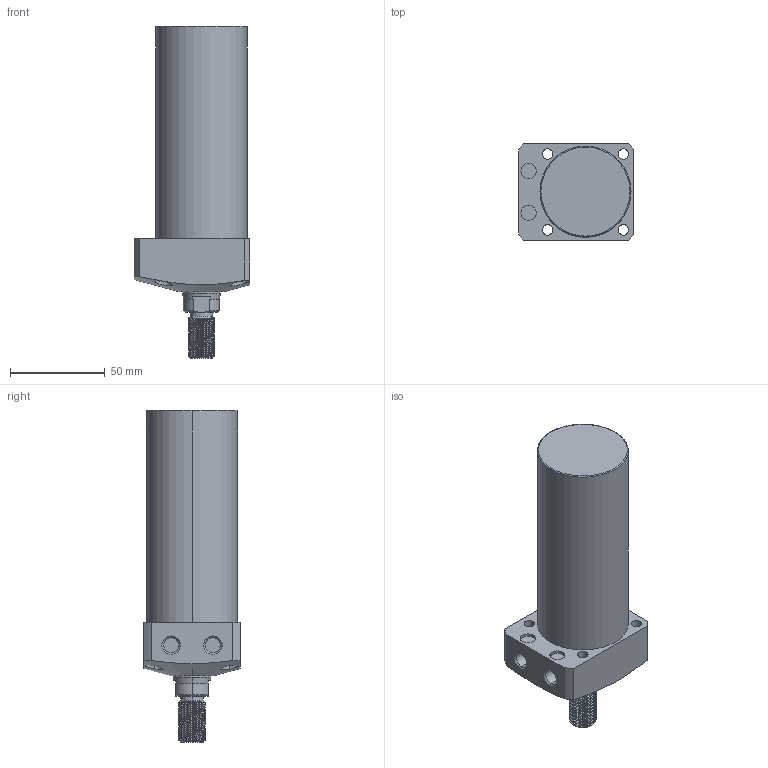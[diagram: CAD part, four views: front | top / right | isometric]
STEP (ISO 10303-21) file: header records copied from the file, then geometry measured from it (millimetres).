
FILE_DESCRIPTION (( 'STEP AP203' ), '1' );
FILE_NAME ('CLL-048CT-085.STEP', '2020-01-08T10:08:31', ( '' ), ( '' ), 'SwSTEP 2.0', 'SolidWorks 2015', '' );
FILE_SCHEMA (( 'CONFIG_CONTROL_DESIGN' ));
Length unit declared in the file: millimetre
Products named in the file (1): CLL-048CT-085
Bounding box: 61 x 51 x 175 mm (x, y, z)
Volume: 281676.1 mm3; surface area: 32905.4 mm2
Topology: 1 solids, 1 shells, 122 faces, 310 edges, 201 vertices
Faces by surface type: cylinder 77, plane 24, cone 17, torus 2, bspline 2
Entity records: 6471 total; most frequent: CARTESIAN_POINT 3670, ORIENTED_EDGE 620, DIRECTION 522, EDGE_CURVE 310, AXIS2_PLACEMENT_3D 206, VERTEX_POINT 201, EDGE_LOOP 141, FACE_OUTER_BOUND 122
